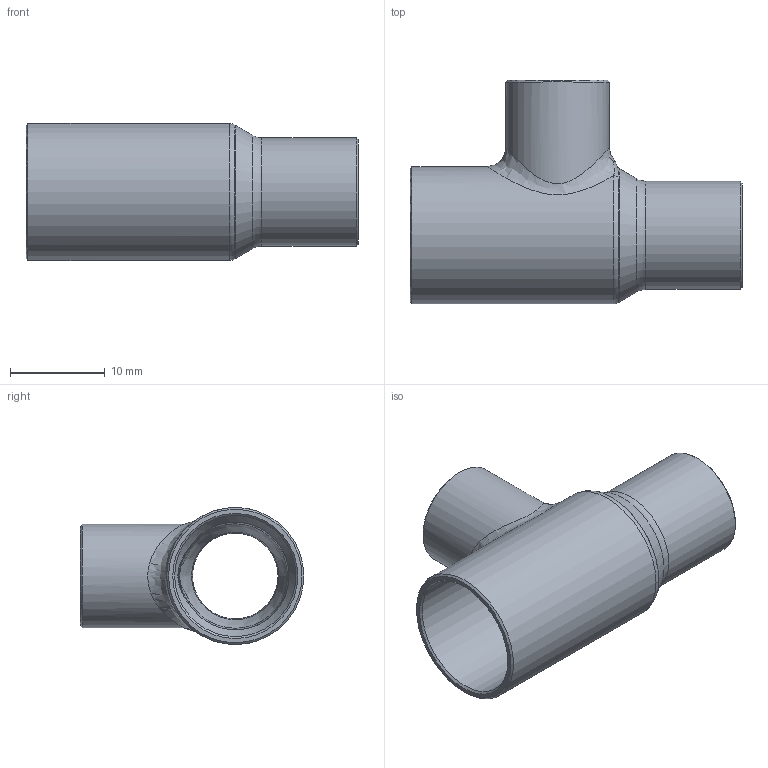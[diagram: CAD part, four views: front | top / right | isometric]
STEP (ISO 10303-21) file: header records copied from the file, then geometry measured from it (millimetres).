
FILE_DESCRIPTION((''),'2;1');
FILE_NAME('G:\SANHA-Ternat\Technik\Management\Bouwmaten + markeringen\z-maattekeningen 3D\29000s\29130123838_3d.stp','2017-07-31T15:27:04',('vdvijverd'),(''),'Autodesk Inventor 2009','Autodesk Inventor 2009','');
FILE_SCHEMA(('AUTOMOTIVE_DESIGN { 1 0 10303 214 1 1 1 1 }'));
Length unit declared in the file: millimetre
Products named in the file (1): 29130123838_3d
Bounding box: 35.1 x 23.65 x 14.5 mm (x, y, z)
Volume: 1672.5 mm3; surface area: 3320.8 mm2
Topology: 1 solids, 1 shells, 34 faces, 83 edges, 50 vertices
Faces by surface type: cone 11, cylinder 9, bspline 7, torus 4, plane 3
Full cylindrical faces by diameter (mm): 9.645 x2, 10.95 x1, 11.445 x1, 12.82 x1, 14.5 x1
Entity records: 2592 total; most frequent: CARTESIAN_POINT 1924, DIRECTION 124, ORIENTED_EDGE 114, AXIS2_PLACEMENT_3D 62, EDGE_CURVE 57, EDGE_LOOP 57, VERTEX_POINT 44, CIRCLE 34
